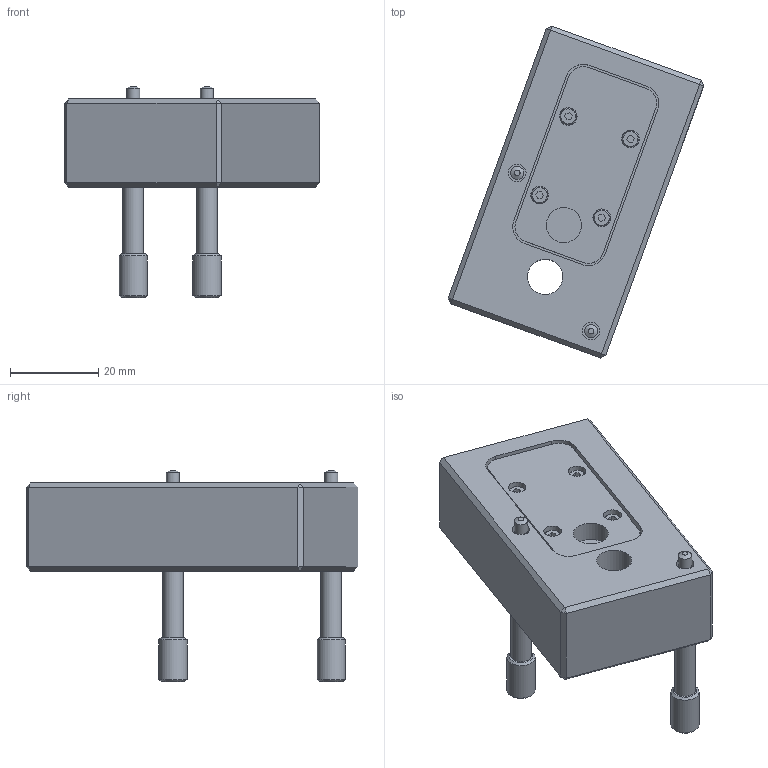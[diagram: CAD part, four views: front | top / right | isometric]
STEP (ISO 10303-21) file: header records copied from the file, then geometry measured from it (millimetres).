
FILE_DESCRIPTION(/* description */ (''),/* implementation_level */ '2;1');
FILE_NAME(/* name */ 'LA_8003_2039_A2.stp',/* time_stamp */ '2012-05-10T11:55:50+01:00',/* author */ (''),/* organization */ (''),/* preprocessor_version */ 'ST-DEVELOPER v11',/* originating_system */ 'SIEMENS PLM Software NX 7.5',/* authorisation */ '');
FILE_SCHEMA (('AP203_CONFIGURATION_CONTROLLED_3D_DESIGN_OF_MECHANICAL_PARTS_AND_ASSEMBLIES_MIM_LF'));
Length unit declared in the file: millimetre
Products named in the file (1): js136052sple
Bounding box: 57.94 x 75.27 x 48 mm (x, y, z)
Volume: 49394 mm3; surface area: 13096.9 mm2
Topology: 3 solids, 7 shells, 595 faces, 1524 edges, 1007 vertices
Faces by surface type: plane 428, extrusion 105, cylinder 48, cone 14
Full cylindrical faces by diameter (mm): 1.7 x1, 2 x5, 2.25 x2, 2.5 x4, 2.6 x2, 3 x2, 3.8 x4, 4 x6, 4.7 x2, 5 x2, 6.4 x2, 8 x3, 17.8 x1, 18.5 x1
Entity records: 21983 total; most frequent: CARTESIAN_POINT 3835, ORIENTED_EDGE 2916, DIRECTION 2441, EDGE_CURVE 1458, VECTOR 1247, LINE 1142, VERTEX_POINT 992, EDGE_LOOP 724
